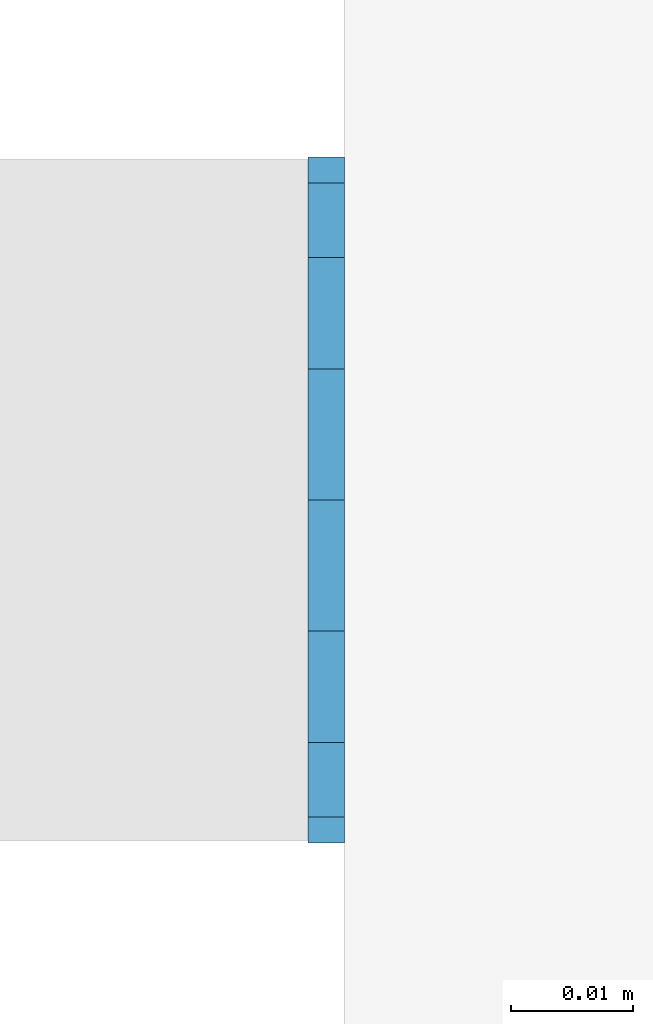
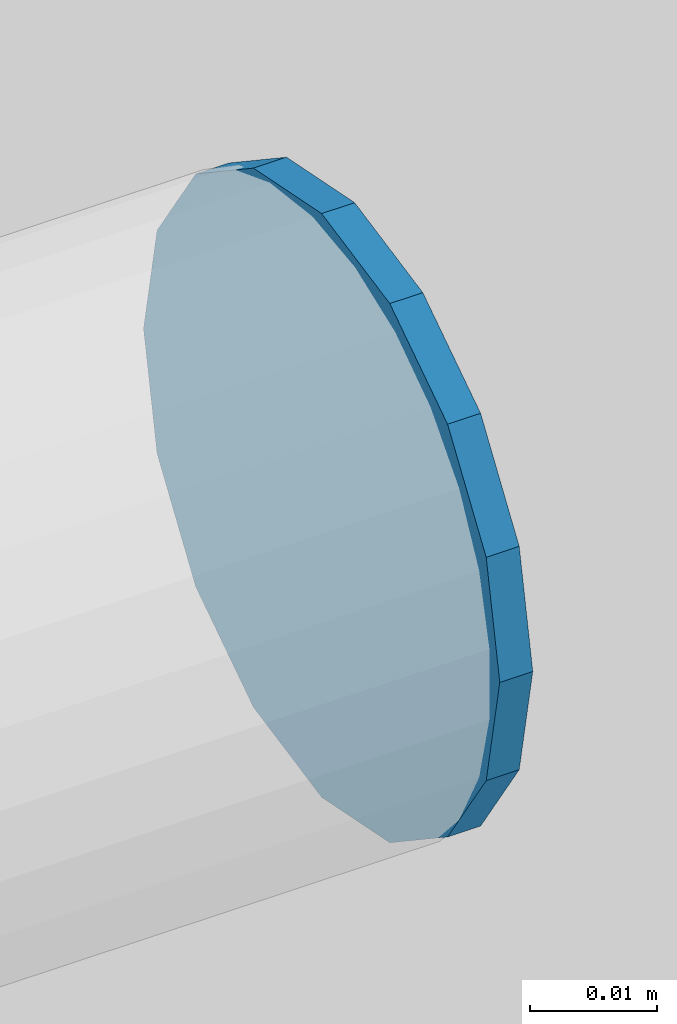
# One storey, part 85 of 186: 1 beam.
"""IFC4X3_ADD2 building model written with IfcOpenShell, lengths in millimetres."""

from ifc_helpers import new_model, si_unit, direction, frame, origin_with_axes, place, context, subcontext, project, spatial, indexed_curve, outline, extrude, material, element, save


model = new_model("IFC4X3_ADD2")

# Units and contexts
model_context = context("Model", 3, precision=1e-05, world=origin_with_axes(), true_north=direction((0.0, 1.0)))
body_context = subcontext(model_context, "Body", "Model", "MODEL_VIEW")
ifc_project = project(units=[si_unit("LENGTHUNIT", "METRE", prefix="MILLI"), si_unit("AREAUNIT", "SQUARE_METRE"), si_unit("VOLUMEUNIT", "CUBIC_METRE"), si_unit("PLANEANGLEUNIT", "RADIAN"), si_unit("TIMEUNIT", "SECOND"), si_unit("MASSUNIT", "GRAM")], contexts=[model_context])

# Site, building, storey
site_placement = place(None, origin_with_axes())
site = spatial("IfcSite", under=ifc_project, at=site_placement, Name="Site", CompositionType="ELEMENT")
building_placement = place(site_placement, origin_with_axes())
building = spatial("IfcBuilding", under=site, at=building_placement, Name="IFC Building Story")
storey_placement = place(building_placement, frame((0.0, 0.0, 4370.0), z_axis=(0.0, 0.0, 1.0), x_axis=(1.0, 0.0, 0.0)))
storey = spatial("IfcBuildingStorey", under=building, at=storey_placement, Name="ETAGE 10 (1)", Elevation=4370.0)

# Beam
ifc_material = material(Name="STEEL/Accessory 22919")
beam_placement = place(storey_placement, frame((40161.189, 195.0, 2230.880000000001), z_axis=(-1.0, 0.0, 0.0), x_axis=(0.0, 0.5555702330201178, 0.8314696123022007)))
element("IfcBeam", 1, at=beam_placement, inside=storey, material=ifc_material, Name="TA4", ObjectType="D56", context=body_context, shape_type="SweptSolid", body=[
    extrude(outline(indexed_curve([(23.28114914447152, 15.55596652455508), (27.46198785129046, 5.462529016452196), (27.46198785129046, -5.462529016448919), (23.28114914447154, -15.55596652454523), (15.55596652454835, -23.28114914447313), (5.462529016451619, -27.46198785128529), (-5.462529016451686, -27.46198785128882), (-15.55596652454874, -23.28114914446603), (-23.2811491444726, -15.55596652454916), (-27.46198785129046, -5.462529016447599), (-27.46198785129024, 5.462529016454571), (-23.28114914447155, 15.55596652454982), (-15.55596652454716, 23.28114914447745), (-5.462529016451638, 27.46198785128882), (5.462529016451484, 27.46198785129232), (15.55596652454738, 23.28114914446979), (23.28114914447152, 15.55596652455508)])), origin_with_axes(), (0.0, 0.0, 1.0), 3.0),
])

save(model, "model.ifc")
